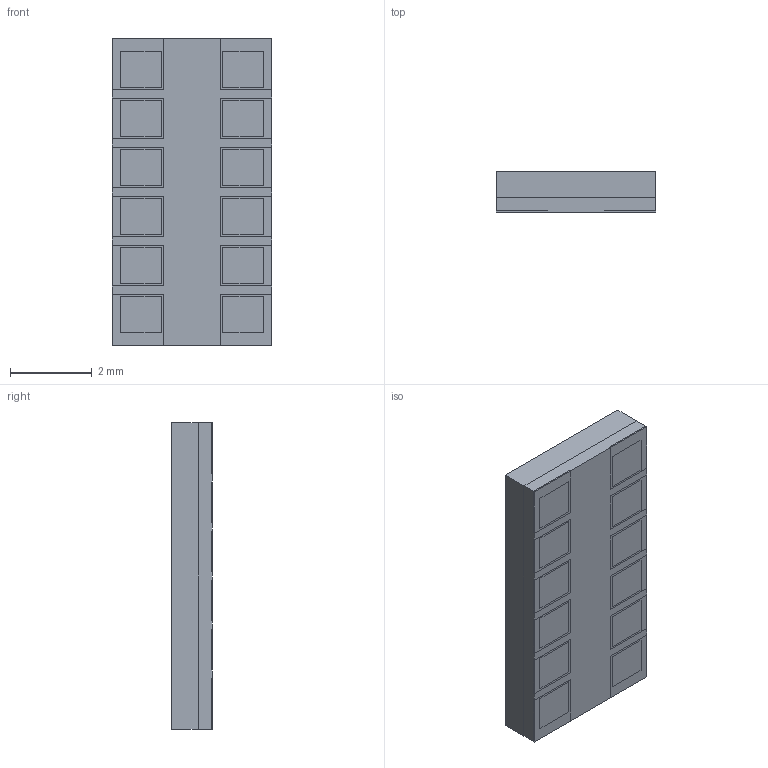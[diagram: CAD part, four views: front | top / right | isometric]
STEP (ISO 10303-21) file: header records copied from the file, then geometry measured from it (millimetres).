
FILE_DESCRIPTION (( 'STEP AP214' ), '1' );
FILE_NAME ('SFH 7072.STEP', '2024-01-15T10:58:37', ( 'LENOVO' ), ( '' ), 'SwSTEP 2.0', 'SolidWorks 2021', '' );
FILE_SCHEMA (( 'AUTOMOTIVE_DESIGN' ));
Length unit declared in the file: millimetre
Products named in the file (1): SFH 7072
Bounding box: 3.9 x 1 x 7.5 mm (x, y, z)
Volume: 29.2 mm3; surface area: 234.6 mm2
Topology: 29 solids, 29 shells, 365 faces, 876 edges, 584 vertices
Faces by surface type: plane 341, cylinder 24
Entity records: 10752 total; most frequent: CARTESIAN_POINT 1826, ORIENTED_EDGE 1752, DIRECTION 1656, EDGE_CURVE 876, VECTOR 828, LINE 828, VERTEX_POINT 584, AXIS2_PLACEMENT_3D 414
